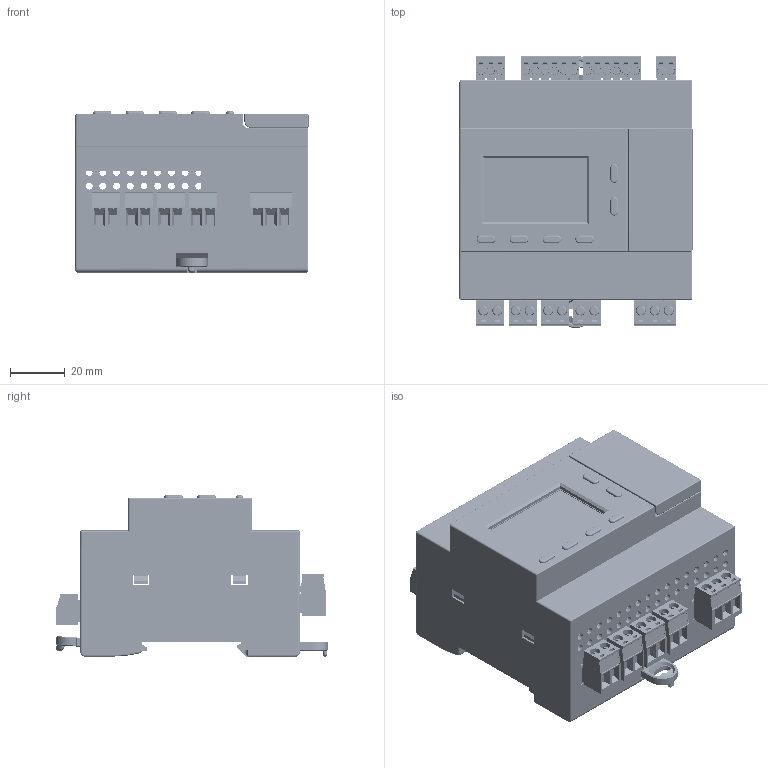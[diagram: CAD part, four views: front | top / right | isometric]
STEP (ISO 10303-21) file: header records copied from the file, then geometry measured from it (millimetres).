
FILE_DESCRIPTION (( 'STEP AP203' ), '1' );
FILE_NAME ('SMRE-SR2-装配体-V2.1（85X80X58）.STEP', '2024-09-20T09:15:16', ( '' ), ( '' ), 'SwSTEP 2.0', 'SolidWorks 2018', '' );
FILE_SCHEMA (( 'CONFIG_CONTROL_DESIGN' ));
Length unit declared in the file: millimetre
Products named in the file (23): SMRE-SR2-GJAJ-V2.1; HA03-01A+PA03-01A?3-5-6P; SW-T1-A0410-H5; 縐諶1; TP-508-2P-蚾饜极; HA05-00C+PA05-00A-3P-C; SMRE-SR2-装配体-V2.1（85X80X58）; FOG12864221-FCNN-CD-A0; TP-508-3P-蚾饜极; JL2EDGRC-5.08-2P-M; SMRE-SR2-XG-V2.1; RJ45-LED; COMPOUND.step-12_1.stp.SLDPRT.stp.STEP-1; SMRE-SR2-PCB1-V2.1; SMRE-SR2-SG-V2.1; USB-C; HA03-01A+PA03-01A?3-5-3P; SMRE-SR2-PCB2-V2.1; JL2EDGRC-5.08-3P-T; 縐諶2; HA03-01A+PA03-01A?3-5-2P; SMRE-SR2-FG-V2.0; JL2EDGRC-5.08-2P-T
Assembly tree (33 placements, depth 3):
  SMRE-SR2-装配体-V2.1（85X80X58）
    SMRE-SR2-XG-V2.1
    SMRE-SR2-SG-V2.1
    SMRE-SR2-FG-V2.0
    SMRE-SR2-PCB2-V2.1
    COMPOUND.step-12_1.stp.SLDPRT.stp.STEP-1
    SMRE-SR2-PCB1-V2.1
    縐諶1
    縐諶2
    USB-C
    FOG12864221-FCNN-CD-A0
    TP-508-2P-蚾饜极  x4
      JL2EDGRC-5.08-2P-M
      JL2EDGRC-5.08-2P-T
    TP-508-3P-蚾饜极
      JL2EDGRC-5.08-3P-T
      HA05-00C+PA05-00A-3P-C
    HA03-01A+PA03-01A?3-5-3P
    HA03-01A+PA03-01A?3-5-2P
    RJ45-LED
    SW-T1-A0410-H5  x6
    SMRE-SR2-GJAJ-V2.1  x3
    HA03-01A+PA03-01A?3-5-6P  x2
Bounding box: 85.03 x 99.34 x 58.8 mm (x, y, z)
Volume: 113966.5 mm3; surface area: 147197.7 mm2
Topology: 75 solids, 254 shells, 12242 faces, 33867 edges, 22171 vertices
Faces by surface type: plane 7610, cylinder 3270, bspline 666, torus 299, cone 229, sphere 168
Entity records: 324211 total; most frequent: CARTESIAN_POINT 119351, ORIENTED_EDGE 46250, DIRECTION 36101, EDGE_CURVE 23125, VERTEX_POINT 15146, VECTOR 12709, LINE 12709, AXIS2_PLACEMENT_3D 11696
